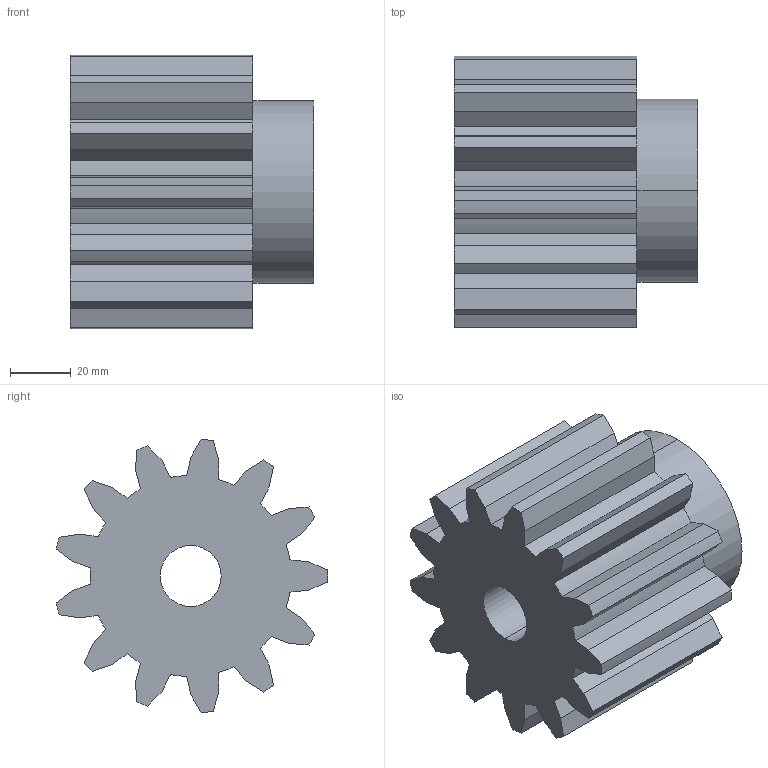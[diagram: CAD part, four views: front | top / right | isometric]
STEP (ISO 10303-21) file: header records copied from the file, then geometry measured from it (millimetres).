
FILE_DESCRIPTION (( 'STEP AP203' ), '1' );
FILE_NAME ('PM 34013.STEP', '2013-09-26T07:56:01', ( '' ), ( '' ), 'SwSTEP 2.0', 'SolidWorks 2010', '' );
FILE_SCHEMA (( 'CONFIG_CONTROL_DESIGN' ));
Length unit declared in the file: millimetre
Products named in the file (1): PM 34013
Bounding box: 80 x 89.12 x 89.74 mm (x, y, z)
Volume: 314267.4 mm3; surface area: 45067.9 mm2
Topology: 1 solids, 1 shells, 85 faces, 246 edges, 164 vertices
Faces by surface type: plane 55, cylinder 30
Entity records: 2933 total; most frequent: CARTESIAN_POINT 652, ORIENTED_EDGE 492, DIRECTION 426, EDGE_CURVE 246, VERTEX_POINT 164, AXIS2_PLACEMENT_3D 146, LINE 134, VECTOR 134
